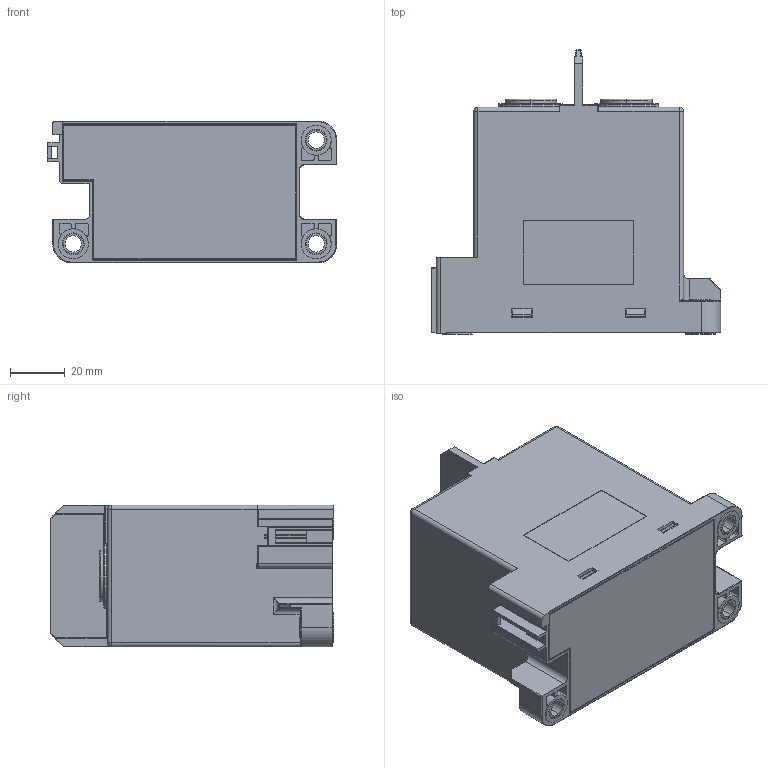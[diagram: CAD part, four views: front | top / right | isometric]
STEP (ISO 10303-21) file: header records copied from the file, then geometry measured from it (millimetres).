
FILE_DESCRIPTION (( 'STEP AP203' ), '1' );
FILE_NAME ('NDZ3AT-40010HB.STEP', '2025-02-10T08:26:40', ( '' ), ( '' ), 'SwSTEP 2.0', 'SolidWorks 2018', '' );
FILE_SCHEMA (( 'CONFIG_CONTROL_DESIGN' ));
Length unit declared in the file: millimetre
Products named in the file (9): 杶遠; 8LD.005.0508; 5LD.005.0231; 慾嫖爾郪璃; NDZ3AT-40010HB; 8LD.553.0078; 圉傖こ1; 5LD.743.0002; 8LD.022.0145
Assembly tree (11 placements, depth 5):
  NDZ3AT-40010HB
    圉傖こ1
      慾嫖爾郪璃
        5LD.743.0002
          8LD.553.0078  x2
    5LD.005.0231
      8LD.005.0508
      杶遠  x3
    8LD.022.0145
Bounding box: 106 x 104 x 52 mm (x, y, z)
Volume: 61459.9 mm3; surface area: 77068.8 mm2
Topology: 7 solids, 7 shells, 1928 faces, 4608 edges, 2513 vertices
Faces by surface type: cylinder 932, plane 467, torus 214, sphere 178, bspline 113, cone 24
Entity records: 54826 total; most frequent: CARTESIAN_POINT 12105, DIRECTION 9141, ORIENTED_EDGE 8634, EDGE_CURVE 4317, AXIS2_PLACEMENT_3D 3464, VERTEX_POINT 2462, VECTOR 2213, LINE 2213
